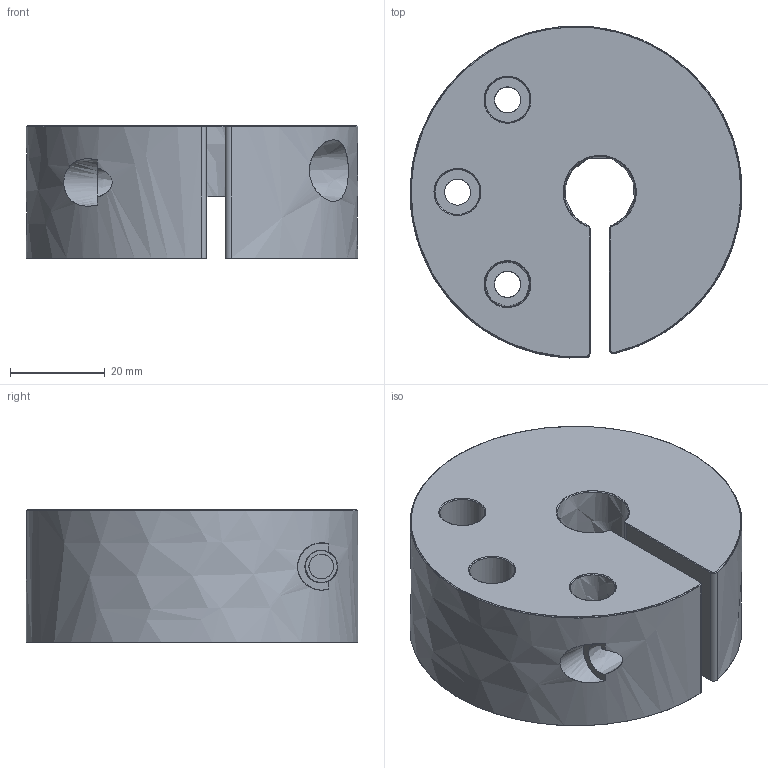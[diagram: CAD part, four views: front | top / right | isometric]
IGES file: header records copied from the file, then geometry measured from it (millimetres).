
Global section: file name: 16HG:\笚\粣馱蚾.igs; native system: NX V10.0; preprocessor: SIEMENS PLM Software NX 10.0; date: 20201112.161926; units: millimetre
Bounding box: 70 x 69.97 x 28 mm (x, y, z)
Surface area: 19742.7 mm2 (no closed solid volume)
Topology: 0 solids, 0 shells, 46 faces, 470 edges, 459 vertices
Faces by surface type: bspline 46
